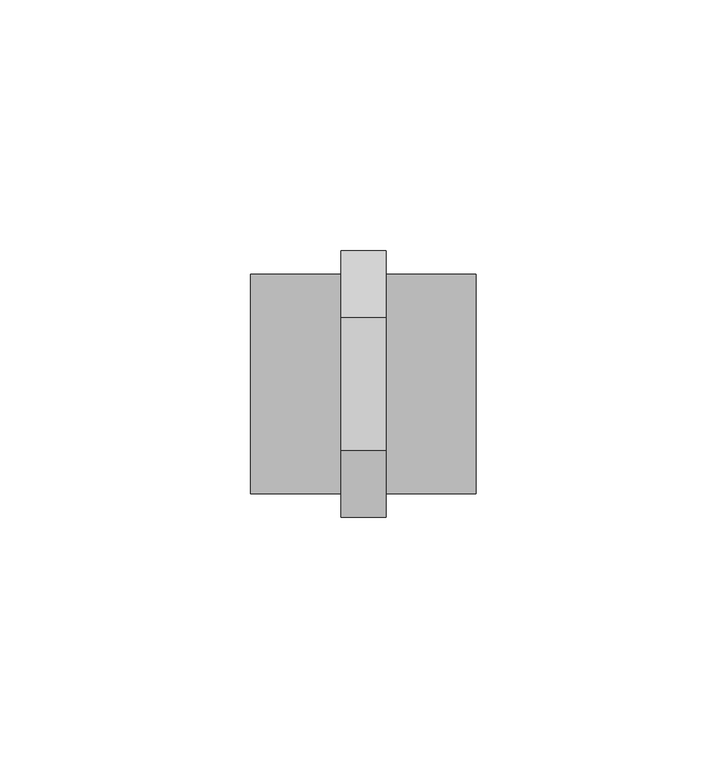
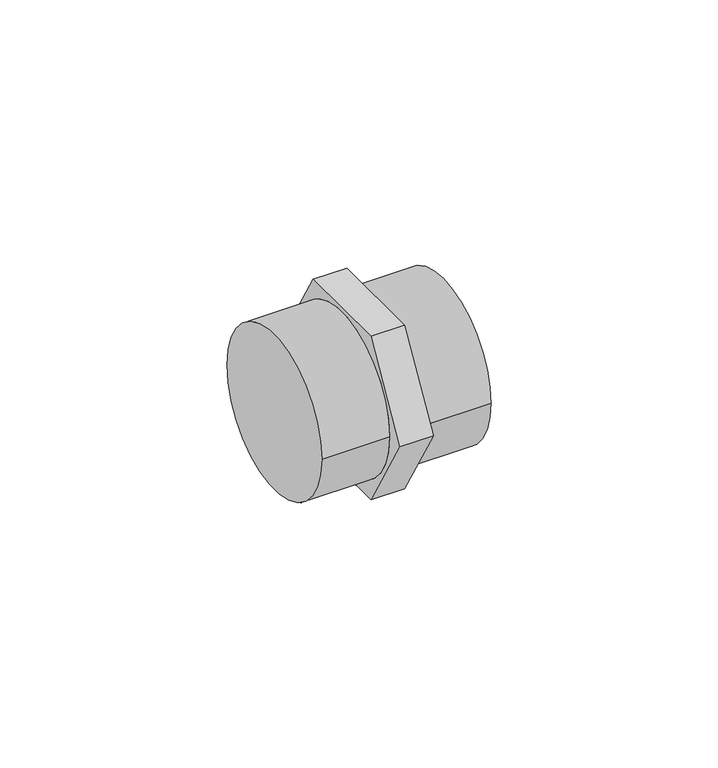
"""IFC4 building model written with IfcOpenShell, lengths in millimetres: pipe fitting geometry, 01011005 : Uniao Simples."""

from ifc_helpers import new_model, si_unit, frame, origin, place, context, project, spatial, circle_curve, source, transform, mapped, element, save
from ifc_brep_helpers import plane_surface, cylinder_surface, advanced_brep


def pipe_fitting_b320def6(model_context):
    return source(origin(), model_context, "Body", "AdvancedBrep", [
        advanced_brep(
        [(4.5, -13.2790562, 23.0), (4.5, -26.5581124, 0.0), (4.5, -13.2790562, -23.0), (4.5, 13.2790562, -23.0), (4.5, 26.5581124, 0.0), (4.5, 13.2790562, 23.0), (4.5, -21.85, 0.0), (4.5, 21.85, 0.0), (-4.5, -13.2790562, 23.0), (-4.5, 13.2790562, 23.0), (-4.5, 26.5581124, 0.0), (-4.5, 13.2790562, -23.0), (-4.5, -13.2790562, -23.0), (-4.5, -26.5581124, 0.0), (-4.5, 21.85, 0.0), (-4.5, -21.85, 0.0), (-22.5, -21.85, 0.0), (-22.5, 21.85, 0.0), (22.5, -21.85, 0.0), (22.5, 21.85, 0.0)],
        [
            (0, 1),
            (1, 2),
            (2, 3),
            (3, 4),
            (4, 5),
            (5, 0),
            (6, 7, circle_curve(frame((4.5, 0.0, 0.0), z_axis=(-1.0, 0.0, 0.0), x_axis=(0.0, 1.0, 0.0)), 21.85)),
            (7, 6, circle_curve(frame((4.5, 0.0, 0.0), z_axis=(-1.0, 0.0, 0.0), x_axis=(0.0, 1.0, 0.0)), 21.85)),
            (8, 9),
            (9, 10),
            (10, 11),
            (11, 12),
            (12, 13),
            (13, 8),
            (14, 15, circle_curve(frame((-4.5, 0.0, 0.0), z_axis=(1.0, 0.0, 0.0), x_axis=(0.0, 1.0, 0.0)), 21.85)),
            (15, 14, circle_curve(frame((-4.5, 0.0, 0.0), z_axis=(1.0, 0.0, 0.0), x_axis=(0.0, 1.0, 0.0)), 21.85)),
            (0, 8),
            (13, 1),
            (12, 2),
            (11, 3),
            (10, 4),
            (9, 5),
            (16, 17, circle_curve(frame((-22.5, 0.0, 0.0), z_axis=(-1.0, 0.0, 0.0), x_axis=(0.0, 1.0, 0.0)), 21.85)),
            (17, 16, circle_curve(frame((-22.5, 0.0, 0.0), z_axis=(-1.0, 0.0, 0.0), x_axis=(0.0, 1.0, 0.0)), 21.85)),
            (18, 19, circle_curve(frame((22.5, 0.0, 0.0), z_axis=(1.0, 0.0, 0.0), x_axis=(0.0, 1.0, 0.0)), 21.85)),
            (19, 18, circle_curve(frame((22.5, 0.0, 0.0), z_axis=(1.0, 0.0, 0.0), x_axis=(0.0, 1.0, 0.0)), 21.85)),
            (16, 15),
            (14, 17),
            (19, 7),
            (6, 18),
        ],
        [
            plane_surface(frame((4.5, -13.2790562, 23.0), z_axis=(1.0, 0.0, 0.0), x_axis=(0.0, -0.5000000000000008, -0.8660254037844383))),
            plane_surface(frame((-4.5, -13.2790562, 23.0), z_axis=(-1.0, 0.0, 0.0), x_axis=(0.0, 0.5000000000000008, 0.8660254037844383))),
            plane_surface(frame((4.5, -13.2790562, 23.0), z_axis=(0.0, -0.8660254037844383, 0.5000000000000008), x_axis=(-1.0, 0.0, 0.0))),
            plane_surface(frame((4.5, -26.5581124, 0.0), z_axis=(0.0, -0.866025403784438, -0.500000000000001), x_axis=(-1.0, 0.0, 0.0))),
            plane_surface(frame((4.5, -13.2790562, -23.0), z_axis=(0.0, 0.0, -1.0), x_axis=(-1.0, 0.0, 0.0))),
            plane_surface(frame((4.5, 13.2790562, -23.0), z_axis=(0.0, 0.8660254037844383, -0.5000000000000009), x_axis=(-1.0, 0.0, 0.0))),
            plane_surface(frame((4.5, 26.5581124, 0.0), z_axis=(0.0, 0.8660254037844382, 0.500000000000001), x_axis=(-1.0, 0.0, 0.0))),
            plane_surface(frame((4.5, 13.2790562, 23.0), z_axis=(0.0, 0.0, 1.0), x_axis=(-1.0, 0.0, 0.0))),
            plane_surface(frame((-22.5, 0.0, 0.0), z_axis=(-1.0, 0.0, 0.0), x_axis=(0.0, 0.0, 1.0))),
            plane_surface(frame((22.5, 0.0, 0.0), z_axis=(1.0, 0.0, 0.0), x_axis=(0.0, 0.0, 1.0))),
            cylinder_surface(frame((-22.5, 0.0, 0.0), z_axis=(-1.0, 0.0, 0.0), x_axis=(0.0, 1.0, 0.0)), 21.85),
        ],
        [
            (0, [[1, 2, 3, 4, 5, 6], [7, 8]]),
            (1, [[9, 10, 11, 12, 13, 14], [15, 16]]),
            (2, [[-1, 17, -14, 18]]),
            (3, [[-2, -18, -13, 19]]),
            (4, [[-3, -19, -12, 20]]),
            (5, [[-4, -20, -11, 21]]),
            (6, [[-5, -21, -10, 22]]),
            (7, [[-6, -22, -9, -17]]),
            (8, [[23, 24]]),
            (9, [[25, 26]]),
            (10, [[-23, 27, -15, 28]]),
            (10, [[-26, 29, -7, 30]]),
            (10, [[-24, -28, -16, -27]]),
            (10, [[-25, -30, -8, -29]]),
        ],
    ),
    ])


if __name__ == "__main__":
    model = new_model("IFC4")
    model_context = context("Model", 3, world=origin())
    ifc_project = project(units=[si_unit("LENGTHUNIT", "METRE", prefix="MILLI")], contexts=[model_context])
    site = spatial("IfcSite", under=ifc_project)
    building = spatial("IfcBuilding", under=site)
    placement = place(None, origin())
    pipe_fitting_shape = pipe_fitting_b320def6(model_context)
    element("IfcPipeFitting", 1, ObjectType="01011005 : Uniao Simples", at=placement, inside=building, context=model_context, shape_type="MappedRepresentation", body=[
        mapped(pipe_fitting_shape, transform((0.0, 0.0, 0.0), x_axis=(1.0, 0.0, 0.0), y_axis=(0.0, 1.0, 0.0), z_axis=(0.0, 0.0, 1.0))),
    ])
    save(model, "model.ifc")
